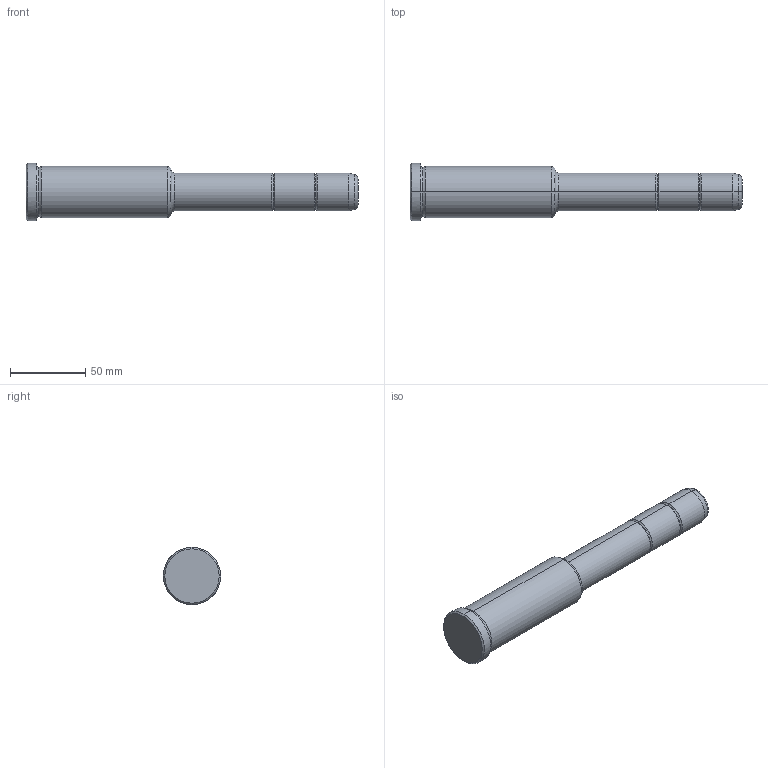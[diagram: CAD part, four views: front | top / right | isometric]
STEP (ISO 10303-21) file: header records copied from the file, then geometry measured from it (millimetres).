
FILE_DESCRIPTION(('CATIA V5 STEP Exchange'),'2;1');
FILE_NAME('C:\Users\Utente\Desktop\IO LAVORO\3D X SITO CF\X SITO\PLASTICA\351\351-25X96X220.stp','2021-09-07T12:18:20+00:00',('none'),('none'),'CATIA Version 5 Release 20 GA (IN-10)','CATIA V5 STEP AP203','none');
FILE_SCHEMA(('CONFIG_CONTROL_DESIGN'));
Length unit declared in the file: millimetre
Products named in the file (1): 351-25X96X220
Bounding box: 220 x 38 x 38 mm (x, y, z)
Volume: 148823 mm3; surface area: 22039.3 mm2
Topology: 1 solids, 1 shells, 36 faces, 102 edges, 70 vertices
Faces by surface type: torus 16, cylinder 10, cone 6, plane 4
Entity records: 1292 total; most frequent: CARTESIAN_POINT 321, ORIENTED_EDGE 204, DIRECTION 166, AXIS2_PLACEMENT_3D 115, EDGE_CURVE 102, CIRCLE 78, VERTEX_POINT 70, EDGE_LOOP 38
